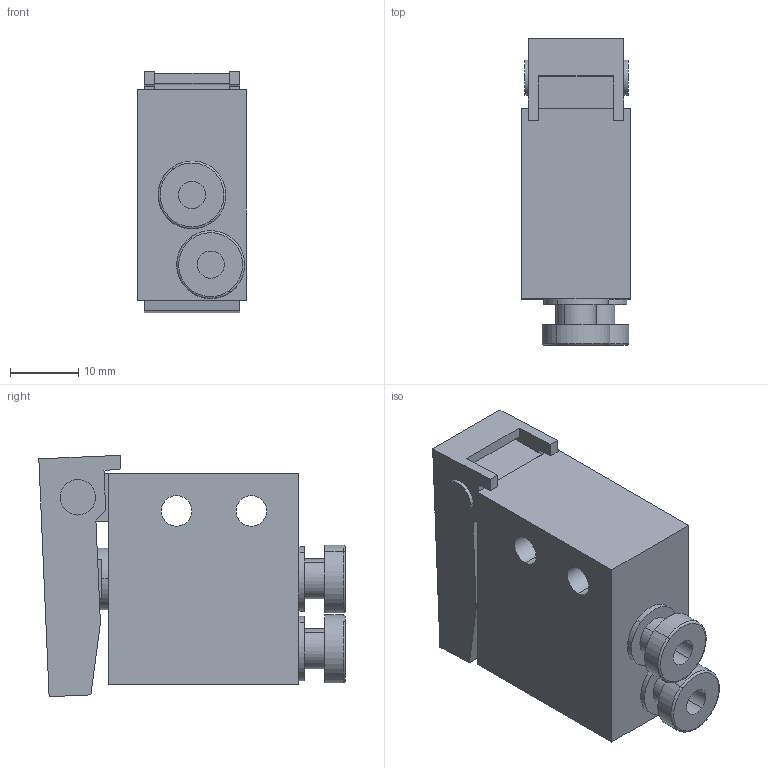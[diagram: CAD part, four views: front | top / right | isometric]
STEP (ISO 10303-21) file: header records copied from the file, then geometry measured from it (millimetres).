
FILE_DESCRIPTION(('STEP AP214'),'1');
FILE_NAME('mat4.stp','2021-07-05T10:08:47',('TraceParts'),('TraceParts S.A.'),'Spatial InterOp 3D',' ',' ');
FILE_SCHEMA(('AUTOMOTIVE_DESIGN { 1 0 10303 214 1 1 1 1 }'));
Length unit declared in the file: millimetre
Products named in the file (1): mat4_1
Bounding box: 16 x 45.05 x 35.49 mm (x, y, z)
Volume: 16065.6 mm3; surface area: 8283.8 mm2
Topology: 4 solids, 4 shells, 120 faces, 283 edges, 180 vertices
Faces by surface type: plane 56, cylinder 48, cone 10, torus 4, sphere 2
Entity records: 3580 total; most frequent: CARTESIAN_POINT 717, DIRECTION 623, ORIENTED_EDGE 554, EDGE_CURVE 277, AXIS2_PLACEMENT_3D 236, VERTEX_POINT 180, LINE 151, VECTOR 151
